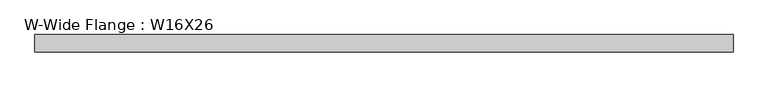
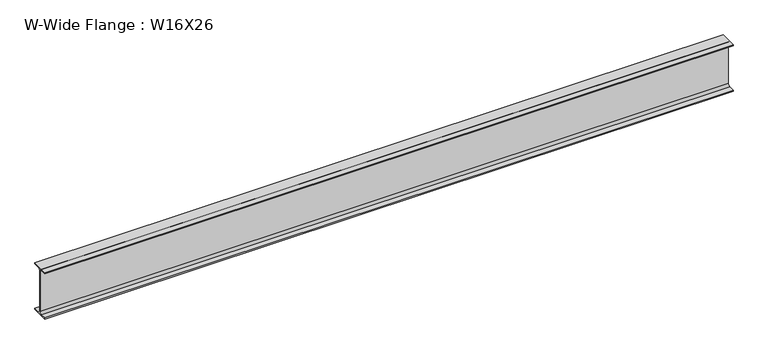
"""IFC4 building model written with IfcOpenShell, lengths in millimetres: beam geometry, W-Wide Flange : W16X26."""

from ifc_helpers import new_model, si_unit, point, frame, frame_2d, origin, place, context, project, spatial, polyline, circle_curve, trimmed, segment, composite_curve, outline, extrude, source, transform, mapped, element, save


def w_wide_flange_w16x26_811e96eb(model_context):
    return source(origin(), model_context, "Body", "SweptSolid", [
        extrude(outline(composite_curve([segment(polyline([(69.85, -190.627), (69.85, -199.39), (-69.85, -199.39), (-69.85, -190.627), (-21.3995, -190.627)]), True, "CONTINUOUS"), segment(trimmed(circle_curve(frame_2d((-21.3995, -172.4025)), 18.2245), [point((-21.3995, -190.627))], [point((-3.175, -172.4025))], True, "CARTESIAN"), True, "CONTINUOUS"), segment(polyline([(-3.175, -172.4025), (-3.175, 172.4025)]), True, "CONTINUOUS"), segment(trimmed(circle_curve(frame_2d((-21.3995, 172.4025)), 18.2245), [point((-3.175, 172.4025))], [point((-21.3995, 190.627))], True, "CARTESIAN"), True, "CONTINUOUS"), segment(polyline([(-21.3995, 190.627), (-69.85, 190.627), (-69.85, 199.39), (69.85, 199.39), (69.85, 190.627), (21.3995, 190.627)]), True, "CONTINUOUS"), segment(trimmed(circle_curve(frame_2d((21.3995, 172.4025)), 18.2245), [point((21.3995, 190.627))], [point((3.175, 172.4025))], True, "CARTESIAN"), True, "CONTINUOUS"), segment(polyline([(3.175, 172.4025), (3.175, -172.4025)]), True, "CONTINUOUS"), segment(trimmed(circle_curve(frame_2d((21.3995, -172.4025)), 18.2245), [point((3.175, -172.4025))], [point((21.3995, -190.627))], True, "CARTESIAN"), True, "CONTINUOUS"), segment(polyline([(21.3995, -190.627), (69.85, -190.627)]), True, "CONTINUOUS")], self_intersect=False)), frame((-2744.7378906, 0.0, 0.0), z_axis=(1.0, 0.0, 0.0), x_axis=(0.0, 1.0, 0.0)), (0.0, 0.0, 1.0), 5603.8253906),
    ])


if __name__ == "__main__":
    model = new_model("IFC4")
    model_context = context("Model", 3, world=origin())
    ifc_project = project(units=[si_unit("LENGTHUNIT", "METRE", prefix="MILLI")], contexts=[model_context])
    site = spatial("IfcSite", under=ifc_project)
    building = spatial("IfcBuilding", under=site)
    placement = place(None, origin())
    w_wide_flange_w16x26_shape = w_wide_flange_w16x26_811e96eb(model_context)
    element("IfcBeam", 1, ObjectType="W-Wide Flange : W16X26", at=placement, inside=building, context=model_context, shape_type="MappedRepresentation", body=[
        mapped(w_wide_flange_w16x26_shape, transform((0.0, 0.0, 0.0), x_axis=(1.0, 0.0, 0.0), y_axis=(0.0, 1.0, 0.0), z_axis=(0.0, 0.0, 1.0))),
    ])
    save(model, "model.ifc")
